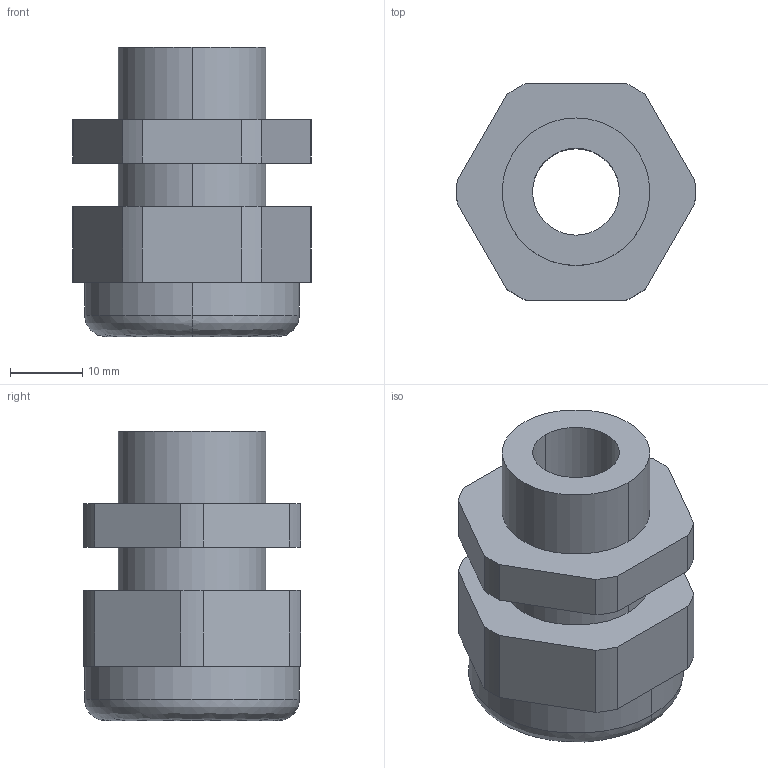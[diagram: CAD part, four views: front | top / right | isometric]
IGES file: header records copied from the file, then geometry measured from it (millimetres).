
Start section:  PTC IGES file: U:\ds\zip\sf\m25.igs
Global section: file name: U:\ds\zip\sf\m25.igs; native system: Pro/ENGINEER by Parametric Technology Corporation; preprocessor: 2003450; author: ds; organization: Unknown; date: 040803.082011; units: millimetre
Bounding box: 32.98 x 30 x 40 mm (x, y, z)
Surface area: 6986.3 mm2 (no closed solid volume)
Topology: 0 solids, 0 shells, 40 faces, 200 edges, 200 vertices
Faces by surface type: revolution 22, bspline 18
